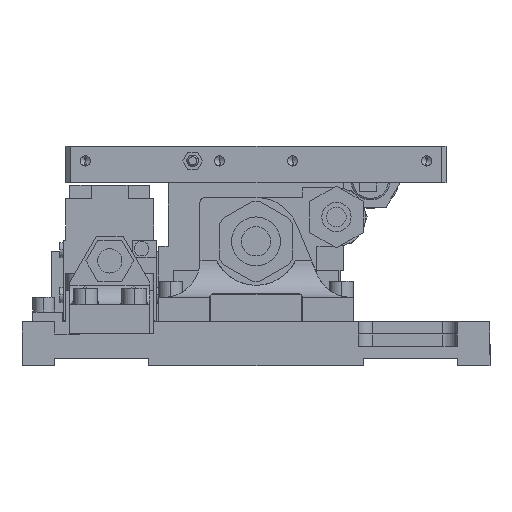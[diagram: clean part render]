
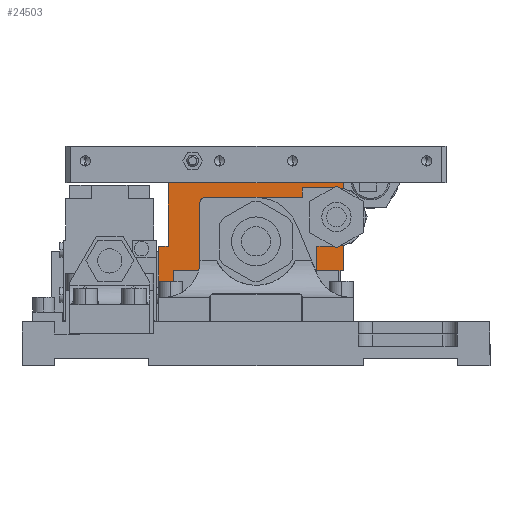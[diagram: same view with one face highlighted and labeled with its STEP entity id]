
A CAD part, left-side view. The second image highlights one B-rep face of the part: STEP entity #24503.
In plain terms, the highlighted planar face has unit normal (-1, 0, 0).
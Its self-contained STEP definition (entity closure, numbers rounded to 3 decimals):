
#85 = LINE ( 'NONE', #2291, #19132 ) ;
#233 = EDGE_CURVE ( 'NONE', #5568, #10983, #16297, .T. ) ;
#594 = CARTESIAN_POINT ( 'NONE',  ( -20.5, 34., -36. ) ) ;
#1136 = CARTESIAN_POINT ( 'NONE',  ( -20.5, -36., 0. ) ) ;
#1218 = EDGE_CURVE ( 'NONE', #11578, #16722, #10032, .T. ) ;
#1750 = ORIENTED_EDGE ( 'NONE', *, *, #233, .T. ) ;
#1882 = ORIENTED_EDGE ( 'NONE', *, *, #18593, .F. ) ;
#2291 = CARTESIAN_POINT ( 'NONE',  ( -20.5, -36., -36. ) ) ;
#2547 = EDGE_LOOP ( 'NONE', ( #29419, #9352, #1750, #26299 ) ) ;
#2590 = CARTESIAN_POINT ( 'NONE',  ( -20.5, 40., -26. ) ) ;
#2601 = AXIS2_PLACEMENT_3D ( 'NONE', #10200, #20574, #7472 ) ;
#2847 = DIRECTION ( 'NONE',  ( 0., 0., 1. ) ) ;
#3093 = CARTESIAN_POINT ( 'NONE',  ( -20.5, 36., -36. ) ) ;
#3188 = ORIENTED_EDGE ( 'NONE', *, *, #8077, .F. ) ;
#3250 = ORIENTED_EDGE ( 'NONE', *, *, #3749, .F. ) ;
#3541 = VERTEX_POINT ( 'NONE', #10072 ) ;
#3574 = VECTOR ( 'NONE', #10079, 1000. ) ;
#3749 = EDGE_CURVE ( 'NONE', #24304, #10221, #10827, .T. ) ;
#3896 = VECTOR ( 'NONE', #27342, 1000. ) ;
#4212 = LINE ( 'NONE', #14066, #11863 ) ;
#4660 = LINE ( 'NONE', #2590, #3574 ) ;
#5180 = EDGE_CURVE ( 'NONE', #9112, #19792, #10465, .T. ) ;
#5273 = VERTEX_POINT ( 'NONE', #1136 ) ;
#5506 = ORIENTED_EDGE ( 'NONE', *, *, #8887, .F. ) ;
#5568 = VERTEX_POINT ( 'NONE', #28777 ) ;
#5579 = CARTESIAN_POINT ( 'NONE',  ( -20.5, 34., -42. ) ) ;
#5661 = CARTESIAN_POINT ( 'NONE',  ( -20.5, -23.5, -20. ) ) ;
#6139 = DIRECTION ( 'NONE',  ( 0., 1., 0. ) ) ;
#6569 = CARTESIAN_POINT ( 'NONE',  ( -20.5, 36., 0. ) ) ;
#7472 = DIRECTION ( 'NONE',  ( 0., 1., 0. ) ) ;
#7785 = CARTESIAN_POINT ( 'NONE',  ( -20.5, 40., -26. ) ) ;
#7911 = VECTOR ( 'NONE', #33322, 1000. ) ;
#7976 = ORIENTED_EDGE ( 'NONE', *, *, #19697, .F. ) ;
#8077 = EDGE_CURVE ( 'NONE', #3541, #19792, #4212, .T. ) ;
#8282 = CARTESIAN_POINT ( 'NONE',  ( -20.5, 40., -26. ) ) ;
#8425 = ORIENTED_EDGE ( 'NONE', *, *, #5180, .T. ) ;
#8534 = LINE ( 'NONE', #21814, #9386 ) ;
#8887 = EDGE_CURVE ( 'NONE', #22845, #28987, #32298, .T. ) ;
#8966 = CARTESIAN_POINT ( 'NONE',  ( -20.5, 40., -42. ) ) ;
#9023 = CARTESIAN_POINT ( 'NONE',  ( -20.5, 36., -36. ) ) ;
#9112 = VERTEX_POINT ( 'NONE', #23461 ) ;
#9352 = ORIENTED_EDGE ( 'NONE', *, *, #32226, .T. ) ;
#9386 = VECTOR ( 'NONE', #6139, 1000. ) ;
#9685 = EDGE_CURVE ( 'NONE', #11728, #20527, #16247, .T. ) ;
#10032 = LINE ( 'NONE', #20560, #10838 ) ;
#10037 = ORIENTED_EDGE ( 'NONE', *, *, #24637, .T. ) ;
#10072 = CARTESIAN_POINT ( 'NONE',  ( -20.5, -36., -36. ) ) ;
#10079 = DIRECTION ( 'NONE',  ( 0., -1., 0. ) ) ;
#10200 = CARTESIAN_POINT ( 'NONE',  ( -20.5, 0., -24. ) ) ;
#10221 = VERTEX_POINT ( 'NONE', #7785 ) ;
#10465 = LINE ( 'NONE', #10790, #15783 ) ;
#10732 = CIRCLE ( 'NONE', #2601, 9.5 ) ;
#10790 = CARTESIAN_POINT ( 'NONE',  ( -20.5, 36., -36. ) ) ;
#10827 = LINE ( 'NONE', #8282, #25930 ) ;
#10838 = VECTOR ( 'NONE', #30931, 1000. ) ;
#10983 = VERTEX_POINT ( 'NONE', #13271 ) ;
#11578 = VERTEX_POINT ( 'NONE', #27515 ) ;
#11728 = VERTEX_POINT ( 'NONE', #12396 ) ;
#11863 = VECTOR ( 'NONE', #14555, 1000. ) ;
#12032 = CARTESIAN_POINT ( 'NONE',  ( -20.5, -21.5, -9. ) ) ;
#12396 = CARTESIAN_POINT ( 'NONE',  ( -20.5, 9.5, -24. ) ) ;
#12624 = DIRECTION ( 'NONE',  ( 0., 1., 0. ) ) ;
#13069 = VECTOR ( 'NONE', #15945, 1000. ) ;
#13271 = CARTESIAN_POINT ( 'NONE',  ( -20.5, -23.5, -20. ) ) ;
#13334 = DIRECTION ( 'NONE',  ( 0., -1., 0. ) ) ;
#13523 = EDGE_LOOP ( 'NONE', ( #10037, #5506, #1882, #3250, #17361, #7976, #8425, #3188, #21428 ) ) ;
#14066 = CARTESIAN_POINT ( 'NONE',  ( -20.5, 36., -36. ) ) ;
#14533 = LINE ( 'NONE', #8966, #3896 ) ;
#14555 = DIRECTION ( 'NONE',  ( 0., 1., 0. ) ) ;
#14712 = ORIENTED_EDGE ( 'NONE', *, *, #9685, .F. ) ;
#14785 = AXIS2_PLACEMENT_3D ( 'NONE', #3093, #15832, #18723 ) ;
#15162 = FACE_OUTER_BOUND ( 'NONE', #13523, .T. ) ;
#15288 = CARTESIAN_POINT ( 'NONE',  ( -20.5, -23.5, -9. ) ) ;
#15783 = VECTOR ( 'NONE', #13334, 1000. ) ;
#15832 = DIRECTION ( 'NONE',  ( 1., 0., 0. ) ) ;
#15945 = DIRECTION ( 'NONE',  ( 0., 0., -1. ) ) ;
#16108 = EDGE_CURVE ( 'NONE', #20527, #11728, #10732, .T. ) ;
#16185 = DIRECTION ( 'NONE',  ( 0., 1., 0. ) ) ;
#16247 = CIRCLE ( 'NONE', #29839, 9.5 ) ;
#16297 = LINE ( 'NONE', #19021, #13069 ) ;
#16722 = VERTEX_POINT ( 'NONE', #12032 ) ;
#17296 = VECTOR ( 'NONE', #19373, 1000. ) ;
#17361 = ORIENTED_EDGE ( 'NONE', *, *, #24055, .T. ) ;
#17731 = DIRECTION ( 'NONE',  ( 0., 0., 1. ) ) ;
#18593 = EDGE_CURVE ( 'NONE', #10221, #22845, #4660, .T. ) ;
#18723 = DIRECTION ( 'NONE',  ( 0., 1., 0. ) ) ;
#18813 = VECTOR ( 'NONE', #31663, 1000. ) ;
#19021 = CARTESIAN_POINT ( 'NONE',  ( -20.5, -23.5, -9. ) ) ;
#19132 = VECTOR ( 'NONE', #17731, 1000. ) ;
#19147 = EDGE_LOOP ( 'NONE', ( #14712, #22221 ) ) ;
#19373 = DIRECTION ( 'NONE',  ( 0., 0., 1. ) ) ;
#19697 = EDGE_CURVE ( 'NONE', #9112, #27205, #23880, .T. ) ;
#19792 = VERTEX_POINT ( 'NONE', #31114 ) ;
#20079 = LINE ( 'NONE', #15288, #7911 ) ;
#20527 = VERTEX_POINT ( 'NONE', #21363 ) ;
#20560 = CARTESIAN_POINT ( 'NONE',  ( -20.5, -21.5, -9. ) ) ;
#20574 = DIRECTION ( 'NONE',  ( -1., 0., 0. ) ) ;
#21135 = LINE ( 'NONE', #5661, #21798 ) ;
#21363 = CARTESIAN_POINT ( 'NONE',  ( -20.5, -9.5, -24. ) ) ;
#21428 = ORIENTED_EDGE ( 'NONE', *, *, #29475, .T. ) ;
#21798 = VECTOR ( 'NONE', #16185, 1000. ) ;
#21814 = CARTESIAN_POINT ( 'NONE',  ( -20.5, 36., 0. ) ) ;
#21860 = CARTESIAN_POINT ( 'NONE',  ( -20.5, 40., -42. ) ) ;
#22047 = CARTESIAN_POINT ( 'NONE',  ( -20.5, 36., -26. ) ) ;
#22221 = ORIENTED_EDGE ( 'NONE', *, *, #16108, .F. ) ;
#22691 = FACE_BOUND ( 'NONE', #19147, .T. ) ;
#22845 = VERTEX_POINT ( 'NONE', #22047 ) ;
#22855 = CARTESIAN_POINT ( 'NONE',  ( -20.5, 0., -24. ) ) ;
#23461 = CARTESIAN_POINT ( 'NONE',  ( -20.5, 34., -36. ) ) ;
#23880 = LINE ( 'NONE', #594, #18813 ) ;
#24055 = EDGE_CURVE ( 'NONE', #24304, #27205, #14533, .T. ) ;
#24304 = VERTEX_POINT ( 'NONE', #21860 ) ;
#24503 = ADVANCED_FACE ( 'NONE', ( #30313, #22691, #15162 ), #33024, .F. ) ;
#24637 = EDGE_CURVE ( 'NONE', #5273, #28987, #8534, .T. ) ;
#25930 = VECTOR ( 'NONE', #2847, 1000. ) ;
#26299 = ORIENTED_EDGE ( 'NONE', *, *, #27523, .T. ) ;
#27205 = VERTEX_POINT ( 'NONE', #5579 ) ;
#27342 = DIRECTION ( 'NONE',  ( 0., -1., 0. ) ) ;
#27515 = CARTESIAN_POINT ( 'NONE',  ( -20.5, -21.5, -20. ) ) ;
#27523 = EDGE_CURVE ( 'NONE', #10983, #11578, #21135, .T. ) ;
#28777 = CARTESIAN_POINT ( 'NONE',  ( -20.5, -23.5, -9. ) ) ;
#28987 = VERTEX_POINT ( 'NONE', #6569 ) ;
#29419 = ORIENTED_EDGE ( 'NONE', *, *, #1218, .T. ) ;
#29475 = EDGE_CURVE ( 'NONE', #3541, #5273, #85, .T. ) ;
#29839 = AXIS2_PLACEMENT_3D ( 'NONE', #22855, #30785, #12624 ) ;
#30313 = FACE_BOUND ( 'NONE', #2547, .T. ) ;
#30785 = DIRECTION ( 'NONE',  ( -1., 0., 0. ) ) ;
#30931 = DIRECTION ( 'NONE',  ( 0., 0., 1. ) ) ;
#31114 = CARTESIAN_POINT ( 'NONE',  ( -20.5, -34., -36. ) ) ;
#31663 = DIRECTION ( 'NONE',  ( 0., 0., -1. ) ) ;
#32226 = EDGE_CURVE ( 'NONE', #16722, #5568, #20079, .T. ) ;
#32298 = LINE ( 'NONE', #9023, #17296 ) ;
#33024 = PLANE ( 'NONE',  #14785 ) ;
#33322 = DIRECTION ( 'NONE',  ( 0., -1., 0. ) ) ;
